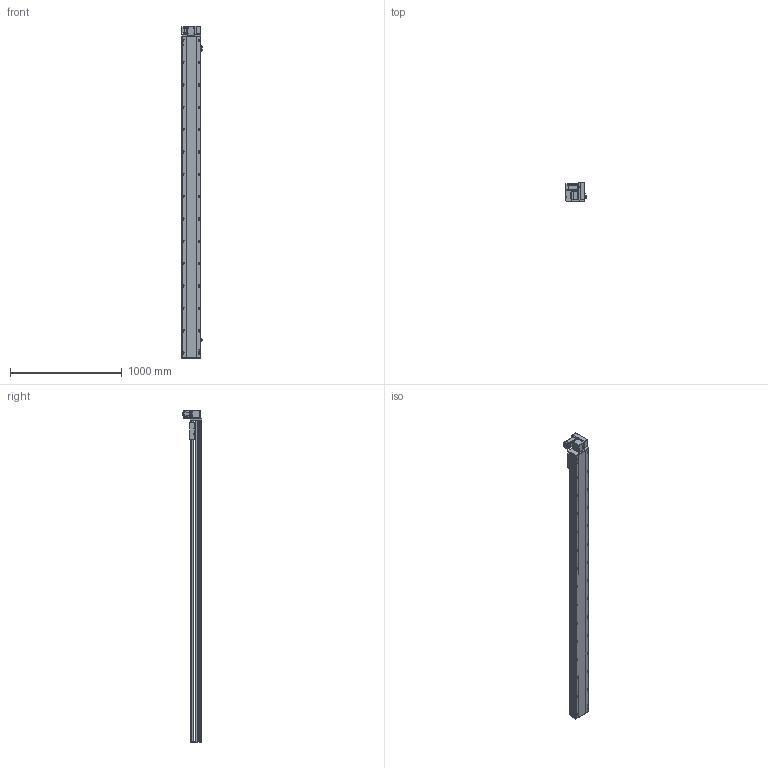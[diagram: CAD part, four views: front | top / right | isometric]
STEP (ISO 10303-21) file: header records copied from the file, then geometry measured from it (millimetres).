
FILE_DESCRIPTION (( 'STEP AP214' ), '1' );
FILE_NAME ('TPT17M-L40-2600-RU-T40-C4.STEP', '2023-03-24T11:03:47', ( '' ), ( '' ), 'SwSTEP 2.0', 'SolidWorks 2020', '' );
FILE_SCHEMA (( 'AUTOMOTIVE_DESIGN' ));
Length unit declared in the file: millimetre
Products named in the file (11): 葩璃 侂狟400W^TPT17M-L40-RU-T40-C4; 葩璃 TPT17-L-005 賑釱MZ-170-07^TPT17M-L40-RU-T40-C4; hexagon socket head cap screws gb_GB_FASTENER_SCREWS_HSHCS M3X6-N; 葩璃 TPT17-L-007 々湍釱MZ-169x88^TPT17M-L40-RU-T40-C4_TPT17M; 葩璃 TPT14-L-009 萇儂啣^TPT17M-L40-RU-T40-C4_400W; 葩璃 TPT17-L-002 奻裔MZ-170-05^TPT17M-L40-RU-T40-C4; hexagon head bolts-full thread gb_GB_FASTENER_BOLT_STBAB A M5X16-N; 葩璃 TPT17-L-001 菁釱MZ-170-01^TPT17M-L40-RU-T40-C4; 葩璃 pm-t65-672^TPT17M-L40-RU-T40-C4; TPT17M-L40-2600-RU-T40-C4; hex nuts, style 1-grades ab gb_GB_FASTENER_NUT_SNAB1 M3-N
Assembly tree (22 placements, depth 2):
  TPT17M-L40-2600-RU-T40-C4
    葩璃 TPT17-L-001 菁釱MZ-170-01^TPT17M-L40-RU-T40-C4
    葩璃 TPT17-L-002 奻裔MZ-170-05^TPT17M-L40-RU-T40-C4
    葩璃 TPT17-L-005 賑釱MZ-170-07^TPT17M-L40-RU-T40-C4
    葩璃 TPT17-L-007 々湍釱MZ-169x88^TPT17M-L40-RU-T40-C4_TPT17M
    葩璃 TPT14-L-009 萇儂啣^TPT17M-L40-RU-T40-C4_400W
    葩璃 pm-t65-672^TPT17M-L40-RU-T40-C4  x3
    葩璃 侂狟400W^TPT17M-L40-RU-T40-C4
    hexagon socket head cap screws gb_GB_FASTENER_SCREWS_HSHCS M3X6-N  x6
    hex nuts, style 1-grades ab gb_GB_FASTENER_NUT_SNAB1 M3-N  x6
    hexagon head bolts-full thread gb_GB_FASTENER_BOLT_STBAB A M5X16-N
Bounding box: 185.76 x 173.15 x 2972 mm (x, y, z)
Volume: 30261710.5 mm3; surface area: 2895523.4 mm2
Topology: 30 solids, 30 shells, 1861 faces, 4758 edges, 2998 vertices
Faces by surface type: plane 937, cylinder 640, cone 246, bspline 26, torus 12
Entity records: 45893 total; most frequent: CARTESIAN_POINT 8612, DIRECTION 7577, ORIENTED_EDGE 7048, EDGE_CURVE 3524, AXIS2_PLACEMENT_3D 2726, VERTEX_POINT 2289, VECTOR 2125, LINE 2125
